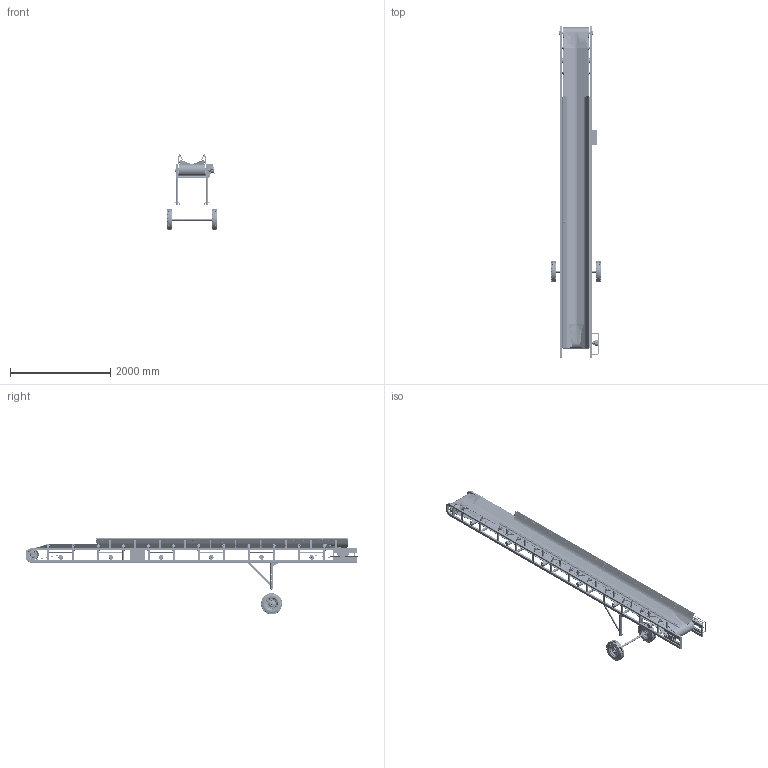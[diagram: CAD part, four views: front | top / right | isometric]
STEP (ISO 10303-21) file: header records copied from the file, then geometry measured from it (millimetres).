
FILE_DESCRIPTION(/* description */ (''),/* implementation_level */ '2;1');
FILE_NAME(/* name */ 'beltconveyor_a048_w500_l6600.stp',/* time_stamp */ '2024-12-22T10:55:19+08:00',/* author */ (''),/* organization */ (''),/* preprocessor_version */ 'ST-DEVELOPER v16.7',/* originating_system */ 'SIEMENS PLM Software NX 12.0',/* authorisation */ '');
FILE_SCHEMA (('AUTOMOTIVE_DESIGN { 1 0 10303 214 3 1 1 1 }'));
Length unit declared in the file: millimetre
Products named in the file (122): N23022_021; N23022_017; N23022_018; Welds_2; N23022_024_A; N23022_023_B; Welds_5; N23022_023_C; N23022_023_A; Welds_1; N23022_003_A; N23022_024_A_ZRC; Welds_6; N23022_023_B_ZRC; N23022_023_A_ZRC; N23022_023_C_ZRC; N23022_028; Z_S_AVLA_X2_010C_X0_KA-2x12__X2_010C_X0_SN 021781; PODLO_X2_017D_X0_KA -10,5__X2_010C_X0_SN 021703; Welds_3; N23022_014_B; N23022_014_A; N23022_019; PERO-14x9x110-_X2_010C_X0_SN 02 2562; _X2_0160_X0_roub M12x50 _X2_010C_X0_SN 021143; N23022_006_H; N23022_006_U; N23022_006_T; N23022_006_A1; N23022_006_J; N23022_006_P; TR-60x40x3.5-2000__X2_010C_X0_SN 425720; N23022_006_V; N23022_006_B; N23022_006_B1; N23022_006_D; TR-40x3-2000__X2_010C_X0_SN 425720; N24022_006_R; N23022_006_M; N23022_006_A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
Assembly tree (747 placements, depth 4):
  beltconveyor_a048_w500_l6600
    PODLO_X2_017D_X0_KA - B 10,5__X2_010C_X0_SN 021702  x40
    P_S_IROV_S_A - 10__X2_010C_X0_SN 021740  x40
    MATKA-M10x1,5__X2_010C_X0_SN021402  x40
    N23022_011  x20
      N23022_011_B
      Welds_4
      N23022_011_A
    P_S_IROV_S_A POD. - 12__X2_010C_X0_SN 02 1740  x4
    N23022_007  x24
      PODLO_X2_017D_X0_KA - B 13__X2_010C_X0_SN 02 1702
      N23022_007_A
      MATICE - M12 x 1,75__X2_010C_X0_SN 02 1402
    MATICE - M12 x 1,75__X2_010C_X0_SN 02 1402  x4
    _X2_0160_X0_ROUB - M10x1,5 x 20__X2_010C_X0_SN 02 1207  x20
    PODLO_X2_017D_X0_KA - 13__X2_010C_X0_SN 02 1702  x8
    N23022_009  x6
    _X2_0160_X0_ROUB - M12x1,75 x 45__X2_010C_X0_SN 02 1207  x4
    _X2_0160_X0_ROUB - M16 x 2__X2_010C_X0_SN 02 1402  x2
    N23022_022
      PODLO_X2_017D_X0_KA_31__X2_010C_X0_SN021702-B  x2
      ps_430_30-90k  x2
      Z_S_AVLA_X2_010C_X0_KA-6,3x45__X2_010C_X0_SN 021781  x2
      N23022_014
        N23022_014_A
        N23022_014_B  x2
        Welds_3
      N23022_028_S  x2
        PODLO_X2_017D_X0_KA -10,5__X2_010C_X0_SN 021703
        Z_S_AVLA_X2_010C_X0_KA-2x12__X2_010C_X0_SN 021781
        N23022_028
    N23022_008
    N23022_032_ZRC
      P_S_IROV_S_A - 10__X2_010C_X0_SN 021740  x30
      MATKA-M10x1,5__X2_010C_X0_SN021402  x30
      N23022_023_ZRC  x2
        N23022_023_C_ZRC
        N23022_023_A_ZRC
        N23022_023_B_ZRC
        Welds_6
      N23022_026_ZRC  x2
      N23022_030_ZRC  x2
      PODLO_X2_017D_X0_KA - B 10,5__X2_010C_X0_SN 021702  x30
      _X2_0160_X0_ROUB - M10x1,5 x 25__X2_010C_X0_SN 02 1207  x30
      N23022_029_ZRC
      N23022_027_ZRC  x4
      N23022_033_ZRC
      N23022_034
      N23022_024_ZRC  x2
        N23022_023_B_ZRC
        N23022_023_C_ZRC
        N23022_024_A_ZRC
      N23022_025_ZRC  x2
    inafag_rasey35-tv-va_afoq0xuuq42ptqw73n8zywdsz  x2
      inafag_rasey35-tv-va_afoq0xuuq42ptqw73n8zywdsz_15
      inafag_rasey35-tv-va_afoq0xuuq42ptqw73n8zywdsz_13
      inafag_rasey35-tv-va_afoq0xuuq42ptqw73n8zywdsz_09
      inafag_rasey35-tv-va_afoq0xuuq42ptqw73n8zywdsz_07
      inafag_rasey35-tv-va_afoq0xuuq42ptqw73n8zywdsz_11
      inafag_rasey35-tv-va_afoq0xuuq42ptqw73n8zywdsz_04
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Bounding box: 1010 x 6611.5 x 1527.99 mm (x, y, z)
Volume: 174318183.2 mm3; surface area: 41761089.8 mm2
Topology: 1189 solids, 1189 shells, 21104 faces, 51097 edges, 32528 vertices
Faces by surface type: plane 9083, cylinder 4446, cone 4266, extrusion 2214, torus 583, bspline 456, sphere 56
Full cylindrical faces by diameter (mm): 15 x12, 80 x12, 90 x6
Entity records: 146185 total; most frequent: CARTESIAN_POINT 48294, ORIENTED_EDGE 18822, DIRECTION 17757, EDGE_CURVE 9411, AXIS2_PLACEMENT_3D 6658, VERTEX_POINT 6071, VECTOR 4441, EDGE_LOOP 4172
